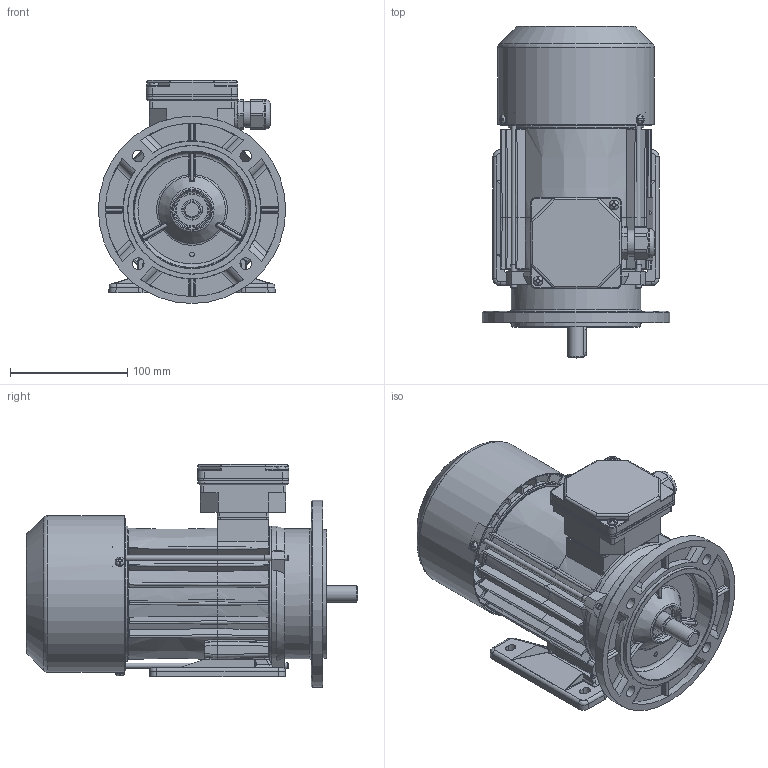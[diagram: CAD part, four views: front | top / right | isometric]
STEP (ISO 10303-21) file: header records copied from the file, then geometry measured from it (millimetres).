
FILE_DESCRIPTION(/* description */ ('Unknown'),/* implementation_level */ '2;1');
FILE_NAME(/* name */ '3SIEL71-8B',/* time_stamp */ '2021-02-03T14:55:45+01:00',/* author */ ('Unknown'),/* organization */ ('Unknown'),/* preprocessor_version */ 'ST-DEVELOPER v16.7',/* originating_system */ 'Solid Edge',/* authorisation */ 'Unknown');
FILE_SCHEMA (('AUTOMOTIVE_DESIGN {1 0 10303 214 3 1 1}'));
Products named in the file (1): 3SIEL71-8B
Bounding box: 160 x 283.48 x 190.5 mm (x, y, z)
Volume: 840045.3 mm3; surface area: 471493.8 mm2
Topology: 2 solids, 2 shells, 2627 faces, 7138 edges, 4518 vertices
Faces by surface type: plane 1093, cylinder 738, bspline 421, torus 181, cone 168, sphere 26
Full cylindrical faces by diameter (mm): 2 x2, 2.4 x2, 3.7 x4, 3.8 x4, 4 x3, 4.4 x3, 4.8 x2, 5 x8, 5.1 x3, 5.5 x3, 5.8 x4, 7 x1, 8 x6, 10 x4, 13.599 x1, 13.999 x1, 15.898 x1, 16.098 x1, 16.498 x1, 16.998 x2, 17.4 x2, 21.998 x2, 22.3 x1, 22.498 x1, 22.648 x1, 22.998 x1, 23.048 x1, 24.496 x4, 25 x1, 27 x1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
Entity records: 109267 total; most frequent: CARTESIAN_POINT 29082, ORIENTED_EDGE 13530, DIRECTION 11895, EDGE_CURVE 6765, AXIS2_PLACEMENT_3D 4477, VERTEX_POINT 4391, EDGE_LOOP 3070, FACE_BOUND 3070
